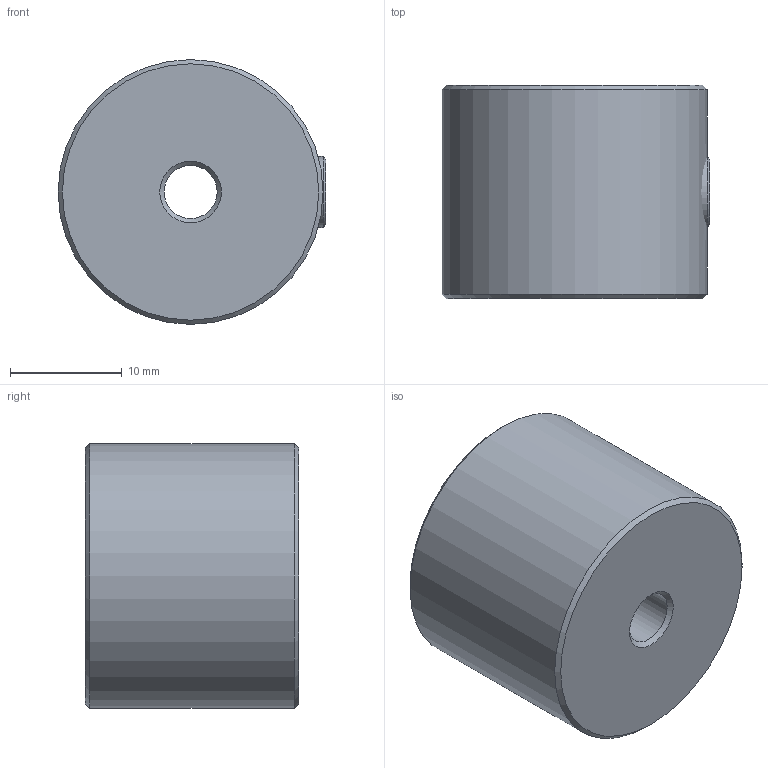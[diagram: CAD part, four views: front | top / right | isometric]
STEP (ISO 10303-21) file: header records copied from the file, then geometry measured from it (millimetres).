
FILE_DESCRIPTION(/* description */ (''),/* implementation_level */ '2;1');
FILE_NAME(/* name */ 'C:/Users/drich/Desktop/D-750 v1.step',/* time_stamp */ '2020-01-08T19:15:21-06:00',/* author */ (''),/* organization */ (''),/* preprocessor_version */ 'ST-DEVELOPER v18',/* originating_system */ 'Autodesk Translation Framework v8.12.0.6',/* authorisation */ '');
FILE_SCHEMA (('AUTOMOTIVE_DESIGN { 1 0 10303 214 3 1 1 }'));
Length unit declared in the file: inch
Products named in the file (1): D-750
Bounding box: 23.93 x 19.05 x 23.67 mm (x, y, z)
Volume: 8183 mm3; surface area: 2697 mm2
Topology: 2 solids, 2 shells, 26 faces, 59 edges, 39 vertices
Faces by surface type: plane 18, cone 5, cylinder 3
Full cylindrical faces by diameter (mm): 4.75 x1, 6.35 x1, 23.673 x1
Entity records: 779 total; most frequent: DIRECTION 132, CARTESIAN_POINT 125, ORIENTED_EDGE 118, EDGE_CURVE 59, AXIS2_PLACEMENT_3D 46, LINE 40, VECTOR 40, VERTEX_POINT 39
